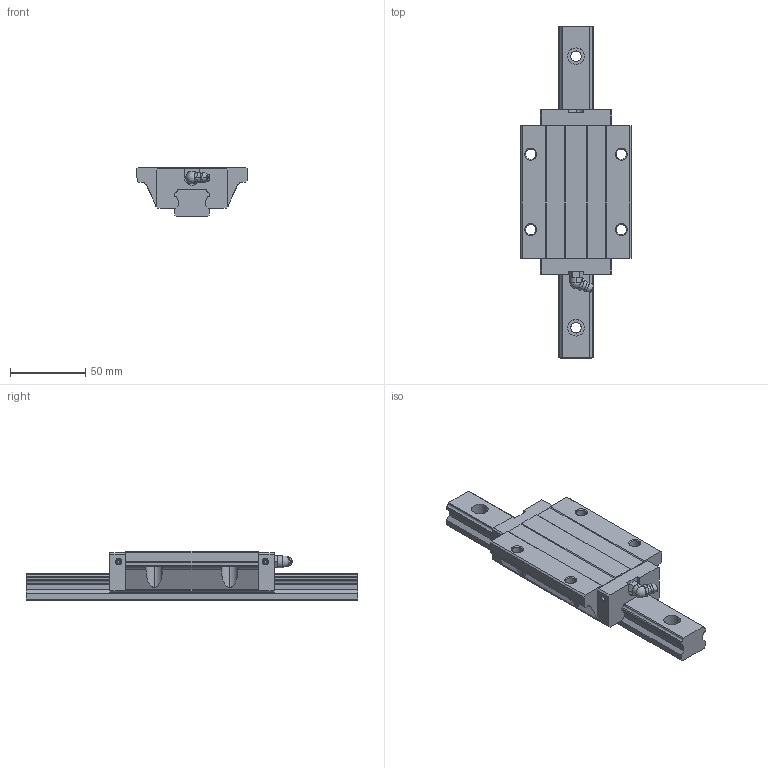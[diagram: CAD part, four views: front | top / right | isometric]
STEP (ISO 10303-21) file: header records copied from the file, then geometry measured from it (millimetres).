
FILE_DESCRIPTION((''),'1');
FILE_NAME(' ',' ',(''),(''),'ACIS Interop R16','Kubotek KeyCreator V6.5.2 (0407)',' ');
FILE_SCHEMA(('CONFIG_CONTROL_DESIGN'));
Length unit declared in the file: millimetre
Products named in the file (3): 1; 2; 3
Bounding box: 73 x 220 x 33 mm (x, y, z)
Volume: 141721.5 mm3; surface area: 46070.8 mm2
Topology: 2 solids, 48 shells, 238 faces, 765 edges, 587 vertices
Faces by surface type: plane 117, cylinder 88, cone 18, torus 10, sphere 3, bspline 2
Entity records: 8820 total; most frequent: CARTESIAN_POINT 1795, DIRECTION 1518, ORIENTED_EDGE 1266, EDGE_CURVE 763, VERTEX_POINT 587, AXIS2_PLACEMENT_3D 538, LINE 442, VECTOR 442
